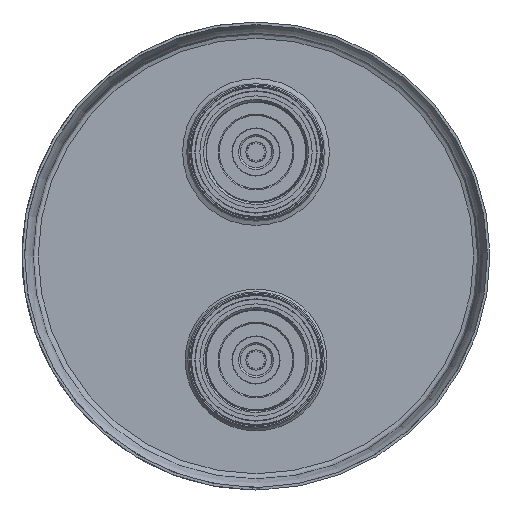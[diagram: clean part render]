
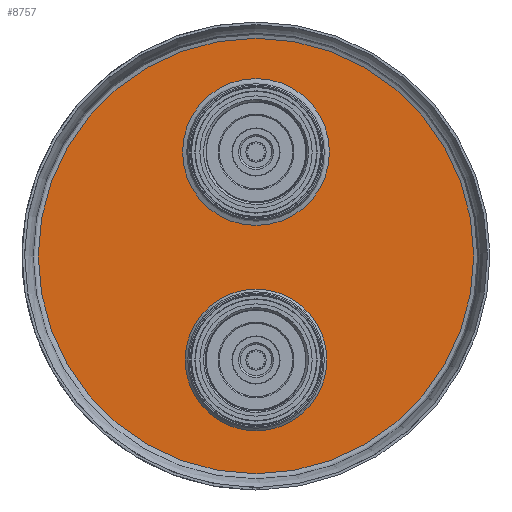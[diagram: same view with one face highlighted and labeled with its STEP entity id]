
A CAD part, left-side view. The second image highlights one B-rep face of the part: STEP entity #8757.
In plain terms, the highlighted planar face has unit normal (-1, 0, 0) as drawn and (0, 0, -1) by its records, which use the part's own axes.
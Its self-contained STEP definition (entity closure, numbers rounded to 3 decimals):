
#702=FACE_BOUND('',#3196,.T.);
#703=FACE_BOUND('',#3197,.T.);
#937=PLANE('',#9532);
#2598=FACE_OUTER_BOUND('',#3195,.T.);
#3195=EDGE_LOOP('',(#8115));
#3196=EDGE_LOOP('',(#8116));
#3197=EDGE_LOOP('',(#8117));
#3610=CIRCLE('',#9531,27.25);
#3611=CIRCLE('',#9533,83.738);
#3612=CIRCLE('',#9534,28.25);
#4455=VERTEX_POINT('',#18207);
#4456=VERTEX_POINT('',#18210);
#4457=VERTEX_POINT('',#18212);
#5698=EDGE_CURVE('',#4455,#4455,#3610,.T.);
#5699=EDGE_CURVE('',#4456,#4456,#3611,.T.);
#5700=EDGE_CURVE('',#4457,#4457,#3612,.T.);
#8115=ORIENTED_EDGE('',*,*,#5699,.T.);
#8116=ORIENTED_EDGE('',*,*,#5700,.F.);
#8117=ORIENTED_EDGE('',*,*,#5698,.F.);
#8757=ADVANCED_FACE('',(#2598,#702,#703),#937,.T.);
#9531=AXIS2_PLACEMENT_3D('',#18208,#11603,#11604);
#9532=AXIS2_PLACEMENT_3D('',#18209,#11605,#11606);
#9533=AXIS2_PLACEMENT_3D('',#18211,#11607,#11608);
#9534=AXIS2_PLACEMENT_3D('',#18213,#11609,#11610);
#11603=DIRECTION('center_axis',(0.,0.,-1.));
#11604=DIRECTION('ref_axis',(-1.,0.,0.));
#11605=DIRECTION('center_axis',(0.,0.,-1.));
#11606=DIRECTION('ref_axis',(-1.,0.,0.));
#11607=DIRECTION('center_axis',(0.,0.,-1.));
#11608=DIRECTION('ref_axis',(0.,-1.,0.));
#11609=DIRECTION('center_axis',(0.,0.,-1.));
#11610=DIRECTION('ref_axis',(-1.,0.,0.));
#18207=CARTESIAN_POINT('',(27.25,-40.,11.));
#18208=CARTESIAN_POINT('Origin',(0.,-40.,11.));
#18209=CARTESIAN_POINT('Origin',(0.,0.,11.));
#18210=CARTESIAN_POINT('',(0.,83.738,11.));
#18211=CARTESIAN_POINT('Origin',(0.,0.,11.));
#18212=CARTESIAN_POINT('',(28.25,40.,11.));
#18213=CARTESIAN_POINT('Origin',(0.,40.,11.));
